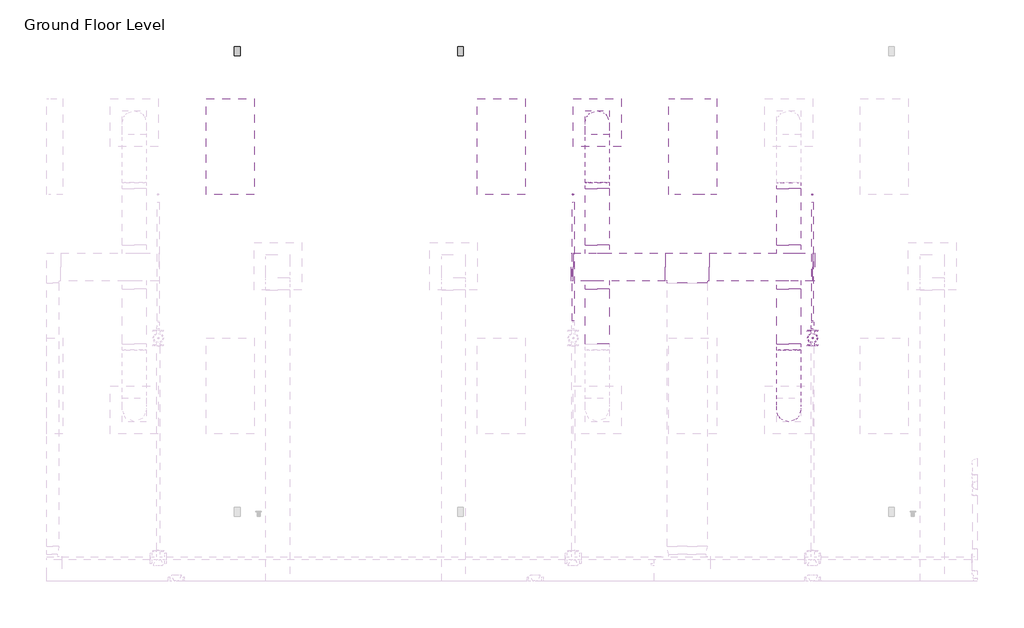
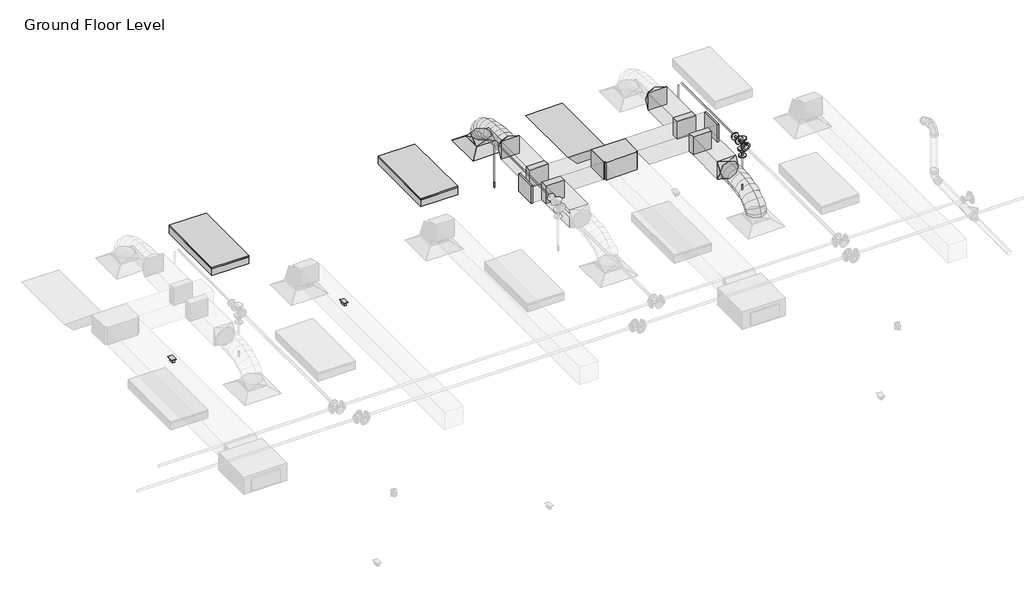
# One storey, part 57 of 74: 11 duct fittings, 8 duct segments, 5 pipe segments, 3 fire suppression terminals, 3 light fixtures, 3 pipe fittings, 2 proxies, 1 air terminal.
"""IFC4 building model written with IfcOpenShell, lengths in millimetres."""

from ifc_helpers import new_model, si_unit, point, frame, frame_2d, origin, place, context, project, spatial, polyline, circle_curve, ellipse_curve, trimmed, segment, composite_curve, outline, extrude, transform, mapped, element, save
from ifc_brep_helpers import plane_surface, cylinder_surface, advanced_brep
from components import m_return_diffuser_600_x_600_face_300_x_300_connection_ff221211, m_duplex_receptacle_standard_10251bba, m_rectangular_endcap_standard_eed78c44, m_rectangular_takeoff_standard_cb0ccb98, m_rectangular_takeoff_standard_2be5eba1, m_rectangular_tee_standard_9fc1ddf1, m_rectangular_to_round_transition_angle_45_degree_641efff0, m_sprinkler_dry_pendent_hosted_15_mm_dry_pendent_9bda8e11, m_emergency_recessed_lighting_fixture_600x1200_277_5b10b25d, m_troffer_light_parabolic_rectangular1_0600x1200mm_4_lamp_86473d4a, m_reducer_flanged_cs_class_150_standard_d42b2106, m_tee_round_base_flanged_cs_class_150_standard_7e5987a1

model = new_model("IFC4")

# Units and contexts
model_context = context("Model", 3, world=origin())
ifc_project = project(units=[si_unit("LENGTHUNIT", "METRE", prefix="MILLI")], contexts=[model_context])

# Site, building, storey
site = spatial("IfcSite", under=ifc_project)
building = spatial("IfcBuilding", under=site)
storey = spatial("IfcBuildingStorey", under=building, Name="Ground Floor Level", Elevation=900.0)

# Air terminal
placement = place(None, origin())
m_return_diffuser_600_x_600_face_300_x_300_connection_shape = m_return_diffuser_600_x_600_face_300_x_300_connection_ff221211(model_context)
element("IfcAirTerminal", 1, ObjectType="M_Supply Diffuser : 600 x 600 Face 300 x 300 Connection", at=placement, inside=storey, context=model_context, shape_type="MappedRepresentation", body=[
    mapped(m_return_diffuser_600_x_600_face_300_x_300_connection_shape, transform((-10937.2327605, 20535.2153534, 3650.0), x_axis=(1.0, 0.0, 0.0), y_axis=(0.0, 1.0, 0.0), z_axis=(0.0, 0.0, 1.0))),
])

# Proxies
m_duplex_receptacle_standard_shape = m_duplex_receptacle_standard_10251bba(model_context)
element("IfcBuildingElementProxy", 2, Name="M_Duplex Receptacle : Standard", ObjectType="M_Duplex Receptacle : Standard", at=placement, inside=storey, context=model_context, shape_type="MappedRepresentation", body=[
    mapped(m_duplex_receptacle_standard_shape, transform((-15447.2327605, 21435.2153534, 1000.0), x_axis=(-1.0, 0.0, 0.0), y_axis=(0.0, -1.0, 0.0), z_axis=(0.0, 0.0, 1.0))),
])
element("IfcBuildingElementProxy", 3, Name="M_Duplex Receptacle : Standard", ObjectType="M_Duplex Receptacle : Standard", at=placement, inside=storey, context=model_context, shape_type="MappedRepresentation", body=[
    mapped(m_duplex_receptacle_standard_shape, transform((-12647.2327605, 21435.2153534, 1000.0), x_axis=(-1.0, 0.0, 0.0), y_axis=(0.0, -1.0, 0.0), z_axis=(0.0, 0.0, 1.0))),
])

# Duct fittings
m_rectangular_endcap_standard_shape = m_rectangular_endcap_standard_eed78c44(model_context)
element("IfcDuctFitting", 4, ObjectType="M_Rectangular Endcap : Standard", at=placement, inside=storey, context=model_context, shape_type="MappedRepresentation", body=[
    mapped(m_rectangular_endcap_standard_shape, transform((-8233.7327999, 18724.6783949, 4099.998205), x_axis=(0.9999999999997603, 0.0, -6.924715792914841e-07), y_axis=(0.0, 1.0000000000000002, 0.0), z_axis=(6.924715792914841e-07, 0.0, 0.9999999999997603))),
])
element("IfcDuctFitting", 5, ObjectType="M_Rectangular Endcap : Standard", at=placement, inside=storey, context=model_context, shape_type="MappedRepresentation", body=[
    mapped(m_rectangular_endcap_standard_shape, transform((-11237.2326293, 18724.6783949, 4099.9983101), x_axis=(-0.9999999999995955, 0.0, -8.994654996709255e-07), y_axis=(0.0, -1.0000000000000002, 0.0), z_axis=(-8.994654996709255e-07, 0.0, 0.9999999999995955))),
])
m_rectangular_takeoff_standard_shape = m_rectangular_takeoff_standard_cb0ccb98(model_context)
element("IfcDuctFitting", 6, ObjectType="M_Rectangular Takeoff : Standard", at=placement, inside=storey, context=model_context, shape_type="MappedRepresentation", body=[
    mapped(m_rectangular_takeoff_standard_shape, transform((-8537.2327605, 18899.6783949, 4099.9984152), x_axis=(0.0, 1.0, 0.0), y_axis=(1.0, 0.0, 0.0), z_axis=(0.0, 0.0, -1.0))),
])
element("IfcDuctFitting", 7, ObjectType="M_Rectangular Takeoff : Standard", at=placement, inside=storey, context=model_context, shape_type="MappedRepresentation", body=[
    mapped(m_rectangular_takeoff_standard_shape, transform((-10937.2327605, 18549.6783949, 4099.9985799), x_axis=(0.0, -1.0, 0.0), y_axis=(-1.0, 0.0, 0.0), z_axis=(0.0, 0.0, -1.0))),
])
m_rectangular_takeoff_standard_2_shape = m_rectangular_takeoff_standard_2be5eba1(model_context)
element("IfcDuctFitting", 8, ObjectType="M_Rectangular Takeoff : Standard", at=placement, inside=storey, context=model_context, shape_type="MappedRepresentation", body=[
    mapped(m_rectangular_takeoff_standard_2_shape, transform((-10937.2327605, 18899.6783949, 4099.9985799), x_axis=(0.0, 1.0, 0.0), y_axis=(1.0, 0.0, 0.0), z_axis=(0.0, 0.0, -1.0))),
])
element("IfcDuctFitting", 9, ObjectType="M_Rectangular Takeoff : Standard", at=placement, inside=storey, context=model_context, shape_type="MappedRepresentation", body=[
    mapped(m_rectangular_takeoff_standard_2_shape, transform((-8537.2327605, 18549.6783949, 4099.9984152), x_axis=(0.0, -1.0, 0.0), y_axis=(-1.0, 0.0, 0.0), z_axis=(0.0, 0.0, -1.0))),
])
m_rectangular_tee_standard_shape = m_rectangular_tee_standard_9fc1ddf1(model_context)
element("IfcDuctFitting", 10, ObjectType="M_Rectangular Tee : Standard", at=placement, inside=storey, context=model_context, shape_type="MappedRepresentation", body=[
    mapped(m_rectangular_tee_standard_shape, transform((-9808.7327605, 18724.6783949, 4099.9992264), x_axis=(0.999999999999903, 0.0, -4.406637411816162e-07), y_axis=(-1.704451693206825e-12, 0.9999999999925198, -3.867919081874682e-06), z_axis=(4.406637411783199e-07, 3.867919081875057e-06, 0.9999999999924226))),
])
m_rectangular_to_round_transition_angle_45_degree_shape = m_rectangular_to_round_transition_angle_45_degree_641efff0(model_context)
element("IfcDuctFitting", 11, ObjectType="M_Rectangular to Round Transition - Angle : 45 Degree", at=placement, inside=storey, context=model_context, shape_type="MappedRepresentation", body=[
    mapped(m_rectangular_to_round_transition_angle_45_degree_shape, transform((-10937.2327605, 20535.2153534, 3751.6), x_axis=(0.0, 0.0, 1.0), y_axis=(-1.0, 0.0, 0.0), z_axis=(0.0, -1.0, 0.0))),
])
element("IfcDuctFitting", 12, ObjectType="M_Rectangular to Round Transition - Angle : 45 Degree", at=placement, inside=storey, context=model_context, shape_type="MappedRepresentation", body=[
    mapped(m_rectangular_to_round_transition_angle_45_degree_shape, transform((-10937.2327605, 19707.878002, 4099.9985799), x_axis=(0.0, 1.0, 0.0), y_axis=(-1.0, 0.0, 0.0), z_axis=(0.0, 0.0, 1.0))),
])
element("IfcDuctFitting", 13, ObjectType="M_Rectangular to Round Transition - Angle : 45 Degree", at=placement, inside=storey, context=model_context, shape_type="MappedRepresentation", body=[
    mapped(m_rectangular_to_round_transition_angle_45_degree_shape, transform((-8537.2327605, 19707.8778373, 4099.9984152), x_axis=(0.0, 1.0, 0.0), y_axis=(-1.0, 0.0, 0.0), z_axis=(0.0, 0.0, 1.0))),
])
element("IfcDuctFitting", 14, ObjectType="M_Rectangular to Round Transition - Angle : 45 Degree", at=placement, inside=storey, context=model_context, shape_type="MappedRepresentation", body=[
    mapped(m_rectangular_to_round_transition_angle_45_degree_shape, transform((-8537.2327605, 17762.5528695, 4099.9984152), x_axis=(0.0, -1.0, 0.0), y_axis=(1.0, 0.0, 0.0), z_axis=(0.0, 0.0, 1.0))),
])

# Duct segments
element("IfcDuctSegment", 15, ObjectType="Flex - Round", at=placement, inside=storey, context=model_context, shape_type="AdvancedBrep", body=[
    advanced_brep(
    [(-10787.2327605, 20535.2153534, 3826.6), (-10937.2327605, 20385.2153534, 3826.6), (-11087.2327605, 20535.2153534, 3826.6), (-10937.2327605, 20685.2153534, 3826.6), (-10787.2327605, 20535.2153534, 3857.9377711), (-10937.2327605, 20385.2153534, 3832.2944759), (-11087.2327605, 20535.2153534, 3857.9377711), (-10937.2327605, 20685.2153534, 3883.5810662), (-10787.2327605, 20518.1993815, 3906.2505987), (-10937.2327605, 20384.461492, 3834.4348871), (-11087.2327605, 20518.1993815, 3906.2505987), (-10937.2327605, 20651.937271, 3978.0663103), (-10787.2327605, 20471.0153939, 3968.7112481), (-10937.2327605, 20366.8097377, 3857.8017132), (-11087.2327605, 20471.0153939, 3968.7112481), (-10937.2327605, 20575.2210501, 4079.620783), (-10787.2327605, 20399.4592831, 4016.0698216), (-10937.2327605, 20330.5256105, 3881.8159377), (-11087.2327605, 20399.4592831, 4016.0698216), (-10937.2327605, 20468.3929557, 4150.3237055), (-10787.2327605, 20309.3269414, 4050.4141926), (-10937.2327605, 20265.7665969, 3906.491959), (-11087.2327605, 20309.3269414, 4050.4141926), (-10937.2327605, 20352.8872859, 4194.3364261), (-10787.2327605, 20206.4142611, 4073.8322345), (-10937.2327605, 20179.853734, 3926.0416493), (-11087.2327605, 20206.4142611, 4073.8322345), (-10937.2327605, 20232.9747882, 4221.6228196), (-10787.2327605, 20096.5171347, 4088.4118207), (-10937.2327605, 20081.3665773, 3939.1075232), (-11087.2327605, 20096.5171347, 4088.4118207), (-10937.2327605, 20111.6676921, 4237.7161183), (-10787.2327605, 19985.4314545, 4096.2408248), (-10937.2327605, 19977.9263947, 3946.3976942), (-11087.2327605, 19985.4314545, 4096.2408248), (-10937.2327605, 19992.9365143, 4246.0839553), (-10787.2327605, 19878.9531128, 4099.40712), (-10937.2327605, 19876.2617774, 3949.4208461), (-11087.2327605, 19878.9531128, 4099.40712), (-10937.2327605, 19881.6444482, 4249.393394), (-10787.2327605, 19782.878002, 4099.9985799), (-10937.2327605, 19783.8014181, 4249.9957376), (-11087.2327605, 19782.878002, 4099.9985799), (-10937.2327605, 19781.9545859, 3950.0014223)],
    [
        (0, 1, circle_curve(frame((-10937.2327605, 20535.2153534, 3826.6), z_axis=(0.0, 0.0, -1.0), x_axis=(1.0, 0.0, 0.0)), 150.0)),
        (1, 2, circle_curve(frame((-10937.2327605, 20535.2153534, 3826.6), z_axis=(0.0, 0.0, -1.0), x_axis=(1.0, 0.0, 0.0)), 150.0)),
        (2, 3, circle_curve(frame((-10937.2327605, 20535.2153534, 3826.6), z_axis=(0.0, 0.0, -1.0), x_axis=(1.0, 0.0, 0.0)), 150.0)),
        (3, 0, circle_curve(frame((-10937.2327605, 20535.2153534, 3826.6), z_axis=(0.0, 0.0, -1.0), x_axis=(1.0, 0.0, 0.0)), 150.0)),
        (0, 4),
        (4, 5, ellipse_curve(frame((-10937.2327605, 20535.2153534, 3857.9377711), z_axis=(0.0, 0.1685106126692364, -0.9856998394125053), x_axis=(0.0, -0.9856998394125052, -0.16851061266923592)), 152.1761433, 150.0)),
        (5, 1),
        (5, 6, ellipse_curve(frame((-10937.2327605, 20535.2153534, 3857.9377711), z_axis=(0.0, 0.1685106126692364, -0.9856998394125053), x_axis=(0.0, -0.9856998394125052, -0.16851061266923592)), 152.1761433, 150.0)),
        (6, 2),
        (6, 7, ellipse_curve(frame((-10937.2327605, 20535.2153534, 3857.9377711), z_axis=(0.0, 0.1685106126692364, -0.9856998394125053), x_axis=(0.0, -0.9856998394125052, -0.16851061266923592)), 152.1761433, 150.0)),
        (7, 3),
        (7, 4, ellipse_curve(frame((-10937.2327605, 20535.2153534, 3857.9377711), z_axis=(0.0, 0.1685106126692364, -0.9856998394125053), x_axis=(0.0, -0.9856998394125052, -0.16851061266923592)), 152.1761433, 150.0)),
        (4, 8),
        (8, 9, ellipse_curve(frame((-10937.2327605, 20518.1993815, 3906.2505987), z_axis=(0.0, 0.4730934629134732, -0.8810122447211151), x_axis=(0.0, -0.8810122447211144, -0.47309346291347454)), 151.8002619, 150.0)),
        (9, 5),
        (9, 10, ellipse_curve(frame((-10937.2327605, 20518.1993815, 3906.2505987), z_axis=(0.0, 0.4730934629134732, -0.8810122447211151), x_axis=(0.0, -0.8810122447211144, -0.47309346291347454)), 151.8002619, 150.0)),
        (10, 6),
        (10, 11, ellipse_curve(frame((-10937.2327605, 20518.1993815, 3906.2505987), z_axis=(0.0, 0.4730934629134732, -0.8810122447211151), x_axis=(0.0, -0.8810122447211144, -0.47309346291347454)), 151.8002619, 150.0)),
        (11, 7),
        (11, 8, ellipse_curve(frame((-10937.2327605, 20518.1993815, 3906.2505987), z_axis=(0.0, 0.4730934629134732, -0.8810122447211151), x_axis=(0.0, -0.8810122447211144, -0.47309346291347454)), 151.8002619, 150.0)),
        (8, 12),
        (12, 13, ellipse_curve(frame((-10937.2327605, 20471.0153939, 3968.7112481), z_axis=(0.0, 0.7287893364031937, -0.684737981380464), x_axis=(0.0, -0.6847379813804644, -0.7287893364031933)), 152.183257, 150.0)),
        (13, 9),
        (13, 14, ellipse_curve(frame((-10937.2327605, 20471.0153939, 3968.7112481), z_axis=(0.0, 0.7287893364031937, -0.684737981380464), x_axis=(0.0, -0.6847379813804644, -0.7287893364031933)), 152.183257, 150.0)),
        (14, 10),
        (14, 15, ellipse_curve(frame((-10937.2327605, 20471.0153939, 3968.7112481), z_axis=(0.0, 0.7287893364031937, -0.684737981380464), x_axis=(0.0, -0.6847379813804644, -0.7287893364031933)), 152.183257, 150.0)),
        (15, 11),
        (15, 12, ellipse_curve(frame((-10937.2327605, 20471.0153939, 3968.7112481), z_axis=(0.0, 0.7287893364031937, -0.684737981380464), x_axis=(0.0, -0.6847379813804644, -0.7287893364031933)), 152.183257, 150.0)),
        (12, 16),
        (16, 17, ellipse_curve(frame((-10937.2327605, 20399.4592831, 4016.0698216), z_axis=(0.0, 0.8895872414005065, -0.4567653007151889), x_axis=(0.0, -0.45676530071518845, -0.8895872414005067)), 150.9170519, 150.0)),
        (17, 13),
        (17, 18, ellipse_curve(frame((-10937.2327605, 20399.4592831, 4016.0698216), z_axis=(0.0, 0.8895872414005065, -0.4567653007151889), x_axis=(0.0, -0.45676530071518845, -0.8895872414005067)), 150.9170519, 150.0)),
        (18, 14),
        (18, 19, ellipse_curve(frame((-10937.2327605, 20399.4592831, 4016.0698216), z_axis=(0.0, 0.8895872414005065, -0.4567653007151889), x_axis=(0.0, -0.45676530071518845, -0.8895872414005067)), 150.9170519, 150.0)),
        (19, 15),
        (19, 16, ellipse_curve(frame((-10937.2327605, 20399.4592831, 4016.0698216), z_axis=(0.0, 0.8895872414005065, -0.4567653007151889), x_axis=(0.0, -0.45676530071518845, -0.8895872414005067)), 150.9170519, 150.0)),
        (16, 20),
        (20, 21, ellipse_curve(frame((-10937.2327605, 20309.3269414, 4050.4141926), z_axis=(0.0, 0.9571211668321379, -0.28968788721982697), x_axis=(0.0, -0.2896878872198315, -0.9571211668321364)), 150.3699202, 150.0)),
        (21, 17),
        (21, 22, ellipse_curve(frame((-10937.2327605, 20309.3269414, 4050.4141926), z_axis=(0.0, 0.9571211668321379, -0.28968788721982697), x_axis=(0.0, -0.2896878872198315, -0.9571211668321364)), 150.3699202, 150.0)),
        (22, 18),
        (22, 23, ellipse_curve(frame((-10937.2327605, 20309.3269414, 4050.4141926), z_axis=(0.0, 0.9571211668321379, -0.28968788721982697), x_axis=(0.0, -0.2896878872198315, -0.9571211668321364)), 150.3699202, 150.0)),
        (23, 19),
        (23, 20, ellipse_curve(frame((-10937.2327605, 20309.3269414, 4050.4141926), z_axis=(0.0, 0.9571211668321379, -0.28968788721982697), x_axis=(0.0, -0.2896878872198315, -0.9571211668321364)), 150.3699202, 150.0)),
        (20, 24),
        (24, 25, ellipse_curve(frame((-10937.2327605, 20206.4142611, 4073.8322345), z_axis=(0.0, 0.9842317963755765, -0.176883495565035), x_axis=(0.0, -0.1768834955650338, -0.9842317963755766)), 150.158312, 150.0)),
        (25, 21),
        (25, 26, ellipse_curve(frame((-10937.2327605, 20206.4142611, 4073.8322345), z_axis=(0.0, 0.9842317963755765, -0.176883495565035), x_axis=(0.0, -0.1768834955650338, -0.9842317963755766)), 150.158312, 150.0)),
        (26, 22),
        (26, 27, ellipse_curve(frame((-10937.2327605, 20206.4142611, 4073.8322345), z_axis=(0.0, 0.9842317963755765, -0.176883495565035), x_axis=(0.0, -0.1768834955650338, -0.9842317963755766)), 150.158312, 150.0)),
        (27, 23),
        (27, 24, ellipse_curve(frame((-10937.2327605, 20206.4142611, 4073.8322345), z_axis=(0.0, 0.9842317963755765, -0.176883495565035), x_axis=(0.0, -0.1768834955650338, -0.9842317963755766)), 150.158312, 150.0)),
        (24, 28),
        (28, 29, ellipse_curve(frame((-10937.2327605, 20096.5171347, 4088.4118207), z_axis=(0.0, 0.9948909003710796, -0.10095591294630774), x_axis=(0.0, -0.10095591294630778, -0.9948909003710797)), 150.0710253, 150.0)),
        (29, 25),
        (29, 30, ellipse_curve(frame((-10937.2327605, 20096.5171347, 4088.4118207), z_axis=(0.0, 0.9948909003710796, -0.10095591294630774), x_axis=(0.0, -0.10095591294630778, -0.9948909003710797)), 150.0710253, 150.0)),
        (30, 26),
        (30, 31, ellipse_curve(frame((-10937.2327605, 20096.5171347, 4088.4118207), z_axis=(0.0, 0.9948909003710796, -0.10095591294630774), x_axis=(0.0, -0.10095591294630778, -0.9948909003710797)), 150.0710253, 150.0)),
        (31, 27),
        (31, 28, ellipse_curve(frame((-10937.2327605, 20096.5171347, 4088.4118207), z_axis=(0.0, 0.9948909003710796, -0.10095591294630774), x_axis=(0.0, -0.10095591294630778, -0.9948909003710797)), 150.0710253, 150.0)),
        (28, 32),
        (32, 33, ellipse_curve(frame((-10937.2327605, 19985.4314545, 4096.2408248), z_axis=(0.0, 0.9987480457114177, -0.05002340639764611), x_axis=(0.0, -0.05002340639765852, -0.9987480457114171)), 150.0309624, 150.0)),
        (33, 29),
        (33, 34, ellipse_curve(frame((-10937.2327605, 19985.4314545, 4096.2408248), z_axis=(0.0, 0.9987480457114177, -0.05002340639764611), x_axis=(0.0, -0.05002340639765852, -0.9987480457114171)), 150.0309624, 150.0)),
        (34, 30),
        (34, 35, ellipse_curve(frame((-10937.2327605, 19985.4314545, 4096.2408248), z_axis=(0.0, 0.9987480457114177, -0.05002340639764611), x_axis=(0.0, -0.05002340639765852, -0.9987480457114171)), 150.0309624, 150.0)),
        (35, 31),
        (35, 32, ellipse_curve(frame((-10937.2327605, 19985.4314545, 4096.2408248), z_axis=(0.0, 0.9987480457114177, -0.05002340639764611), x_axis=(0.0, -0.05002340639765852, -0.9987480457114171)), 150.0309624, 150.0)),
        (32, 36),
        (36, 37, ellipse_curve(frame((-10937.2327605, 19878.9531128, 4099.40712), z_axis=(0.0, 0.9998390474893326, -0.017940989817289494), x_axis=(0.0, -0.0179409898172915, -0.9998390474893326)), 150.0104185, 150.0)),
        (37, 33),
        (37, 38, ellipse_curve(frame((-10937.2327605, 19878.9531128, 4099.40712), z_axis=(0.0, 0.9998390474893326, -0.017940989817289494), x_axis=(0.0, -0.0179409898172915, -0.9998390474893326)), 150.0104185, 150.0)),
        (38, 34),
        (38, 39, ellipse_curve(frame((-10937.2327605, 19878.9531128, 4099.40712), z_axis=(0.0, 0.9998390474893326, -0.017940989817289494), x_axis=(0.0, -0.0179409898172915, -0.9998390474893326)), 150.0104185, 150.0)),
        (39, 35),
        (39, 36, ellipse_curve(frame((-10937.2327605, 19878.9531128, 4099.40712), z_axis=(0.0, 0.9998390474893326, -0.017940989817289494), x_axis=(0.0, -0.0179409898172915, -0.9998390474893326)), 150.0104185, 150.0)),
        (40, 41, circle_curve(frame((-10937.2327605, 19782.878002, 4099.9985799), z_axis=(0.0, -0.9999810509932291, 0.006156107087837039), x_axis=(1.0, 0.0, 0.0)), 150.0)),
        (41, 42, circle_curve(frame((-10937.2327605, 19782.878002, 4099.9985799), z_axis=(0.0, -0.9999810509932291, 0.006156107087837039), x_axis=(1.0, 0.0, 0.0)), 150.0)),
        (42, 43, circle_curve(frame((-10937.2327605, 19782.878002, 4099.9985799), z_axis=(0.0, -0.9999810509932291, 0.006156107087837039), x_axis=(1.0, 0.0, 0.0)), 150.0)),
        (43, 40, circle_curve(frame((-10937.2327605, 19782.878002, 4099.9985799), z_axis=(0.0, -0.9999810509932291, 0.006156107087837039), x_axis=(1.0, 0.0, 0.0)), 150.0)),
        (36, 40),
        (43, 37),
        (42, 38),
        (41, 39),
    ],
    [
        plane_surface(frame((-10937.2327605, 20385.2153534, 3826.6), z_axis=(0.0, 0.0, -1.0), x_axis=(1.0, 0.0, 0.0))),
        cylinder_surface(frame((-10937.2327605, 20535.2153534, 3826.6), z_axis=(0.0, 0.0, -1.0), x_axis=(1.0, 0.0, 0.0)), 150.0),
        cylinder_surface(frame((-10937.2327605, 20535.2153534, 3857.9377711), z_axis=(0.0, 0.33220176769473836, -0.9432083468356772), x_axis=(1.0, 0.0, 0.0)), 150.0),
        cylinder_surface(frame((-10937.2327605, 20518.1993815, 3906.2505987), z_axis=(0.0, 0.6027639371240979, -0.7979195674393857), x_axis=(1.0, 0.0, 0.0)), 150.0),
        cylinder_surface(frame((-10937.2327605, 20471.0153939, 3968.7112481), z_axis=(0.0, 0.8339039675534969, -0.5519095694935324), x_axis=(1.0, 0.0, 0.0)), 150.0),
        cylinder_surface(frame((-10937.2327605, 20399.4592831, 4016.0698216), z_axis=(0.0, 0.9344593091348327, -0.35606993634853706), x_axis=(1.0, 0.0, 0.0)), 150.0),
        cylinder_surface(frame((-10937.2327605, 20309.3269414, 4050.4141926), z_axis=(0.0, 0.9750738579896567, -0.2218805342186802), x_axis=(1.0, 0.0, 0.0)), 150.0),
        cylinder_surface(frame((-10937.2327605, 20206.4142611, 4073.8322345), z_axis=(0.0, 0.9913143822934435, -0.13151348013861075), x_axis=(1.0, 0.0, 0.0)), 150.0),
        cylinder_surface(frame((-10937.2327605, 20096.5171347, 4088.4118207), z_axis=(0.0, 0.997525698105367, -0.07030278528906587), x_axis=(1.0, 0.0, 0.0)), 150.0),
        cylinder_surface(frame((-10937.2327605, 19985.4314545, 4096.2408248), z_axis=(0.0, 0.9995581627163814, -0.02972338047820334), x_axis=(1.0, 0.0, 0.0)), 150.0),
        plane_surface(frame((-10937.2327605, 19781.9545859, 3950.0014223), z_axis=(0.0, -0.9999810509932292, 0.006156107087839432), x_axis=(1.0, 0.0, 0.0))),
        cylinder_surface(frame((-10937.2327605, 19878.9531128, 4099.40712), z_axis=(0.0, 0.9999810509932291, -0.006156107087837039), x_axis=(1.0, 0.0, 0.0)), 150.0),
    ],
    [
        (0, [[1, 2, 3, 4]]),
        (1, [[-1, 5, 6, 7]]),
        (1, [[-2, -7, 8, 9]]),
        (1, [[-3, -9, 10, 11]]),
        (1, [[-4, -11, 12, -5]]),
        (2, [[-6, 13, 14, 15]]),
        (2, [[-8, -15, 16, 17]]),
        (2, [[-10, -17, 18, 19]]),
        (2, [[-12, -19, 20, -13]]),
        (3, [[-14, 21, 22, 23]]),
        (3, [[-16, -23, 24, 25]]),
        (3, [[-18, -25, 26, 27]]),
        (3, [[-20, -27, 28, -21]]),
        (4, [[-22, 29, 30, 31]]),
        (4, [[-24, -31, 32, 33]]),
        (4, [[-26, -33, 34, 35]]),
        (4, [[-28, -35, 36, -29]]),
        (5, [[-30, 37, 38, 39]]),
        (5, [[-32, -39, 40, 41]]),
        (5, [[-34, -41, 42, 43]]),
        (5, [[-36, -43, 44, -37]]),
        (6, [[-38, 45, 46, 47]]),
        (6, [[-40, -47, 48, 49]]),
        (6, [[-42, -49, 50, 51]]),
        (6, [[-44, -51, 52, -45]]),
        (7, [[-46, 53, 54, 55]]),
        (7, [[-48, -55, 56, 57]]),
        (7, [[-50, -57, 58, 59]]),
        (7, [[-52, -59, 60, -53]]),
        (8, [[-54, 61, 62, 63]]),
        (8, [[-56, -63, 64, 65]]),
        (8, [[-58, -65, 66, 67]]),
        (8, [[-60, -67, 68, -61]]),
        (9, [[-62, 69, 70, 71]]),
        (9, [[-64, -71, 72, 73]]),
        (9, [[-66, -73, 74, 75]]),
        (9, [[-68, -75, 76, -69]]),
        (10, [[77, 78, 79, 80]]),
        (11, [[-70, 81, -80, 82]]),
        (11, [[-72, -82, -79, 83]]),
        (11, [[-74, -83, -78, 84]]),
        (11, [[-76, -84, -77, -81]]),
    ],
),
])
element("IfcDuctSegment", 16, ObjectType="Flex - Round", at=placement, inside=storey, context=model_context, shape_type="AdvancedBrep", body=[
    advanced_brep(
    [(-8387.2327605, 16935.2153534, 3826.6), (-8537.2327605, 16785.2153534, 3826.6), (-8687.2327605, 16935.2153534, 3826.6), (-8537.2327605, 17085.2153534, 3826.6), (-8387.2327605, 16935.2153534, 3857.937778), (-8537.2327605, 16785.2153534, 3883.5810816), (-8687.2327605, 16935.2153534, 3857.937778), (-8537.2327605, 17085.2153534, 3832.2944744), (-8387.2327605, 16952.2313299, 3906.2506017), (-8537.2327605, 16818.4934508, 3978.0663351), (-8687.2327605, 16952.2313299, 3906.2506017), (-8537.2327605, 17085.969209, 3834.4348684), (-8387.2327605, 16999.4153299, 3968.7112406), (-8537.2327605, 16895.2097019, 4079.6208039), (-8687.2327605, 16999.4153299, 3968.7112406), (-8537.2327605, 17103.6209579, 3857.8016772), (-8387.2327605, 17070.9714591, 4016.0697935), (-8537.2327605, 17002.0378309, 4150.3237004), (-8687.2327605, 17070.9714591, 4016.0697935), (-8537.2327605, 17139.9050873, 3881.8158865), (-8387.2327605, 17161.1038233, 4050.4141374), (-8537.2327605, 17117.5435273, 4194.3363855), (-8687.2327605, 17161.1038233, 4050.4141374), (-8537.2327605, 17204.6641192, 3906.4918893), (-8387.2327605, 17264.0165282, 4073.8321493), (-8537.2327605, 17237.4560471, 4221.6227426), (-8687.2327605, 17264.0165282, 4073.8321493), (-8537.2327605, 17290.5770092, 3926.0415559), (-8387.2327605, 17373.9136795, 4088.411706), (-8537.2327605, 17358.7631621, 4237.7160075), (-8687.2327605, 17373.9136795, 4088.411706), (-8537.2327605, 17389.0641968, 3939.1074046), (-8387.2327605, 17484.999383, 4096.2406846), (-8537.2327605, 17477.4943543, 4246.0838166), (-8687.2327605, 17484.999383, 4096.2406846), (-8537.2327605, 17492.5044117, 3946.3975526), (-8387.2327605, 17591.4777444, 4099.406962), (-8537.2327605, 17588.7864273, 4249.3932362), (-8687.2327605, 17591.4777444, 4099.406962), (-8537.2327605, 17594.1690615, 3949.4206879), (-8387.2327605, 17687.5528695, 4099.9984152), (-8537.2327605, 17688.4762749, 3950.0012575), (-8687.2327605, 17687.5528695, 4099.9984152), (-8537.2327605, 17686.6294641, 4249.9955729)],
    [
        (0, 1, circle_curve(frame((-8537.2327605, 16935.2153534, 3826.6), z_axis=(0.0, 0.0, -1.0), x_axis=(1.0, 0.0, 0.0)), 150.0)),
        (1, 2, circle_curve(frame((-8537.2327605, 16935.2153534, 3826.6), z_axis=(0.0, 0.0, -1.0), x_axis=(1.0, 0.0, 0.0)), 150.0)),
        (2, 3, circle_curve(frame((-8537.2327605, 16935.2153534, 3826.6), z_axis=(0.0, 0.0, -1.0), x_axis=(1.0, 0.0, 0.0)), 150.0)),
        (3, 0, circle_curve(frame((-8537.2327605, 16935.2153534, 3826.6), z_axis=(0.0, 0.0, -1.0), x_axis=(1.0, 0.0, 0.0)), 150.0)),
        (0, 4),
        (4, 5, ellipse_curve(frame((-8537.2327605, 16935.2153534, 3857.937778), z_axis=(0.0, -0.16851066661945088, -0.9856998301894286), x_axis=(0.0, 0.9856998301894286, -0.16851066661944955)), 152.1761447, 150.0)),
        (5, 1),
        (5, 6, ellipse_curve(frame((-8537.2327605, 16935.2153534, 3857.937778), z_axis=(0.0, -0.16851066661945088, -0.9856998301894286), x_axis=(0.0, 0.9856998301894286, -0.16851066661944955)), 152.1761447, 150.0)),
        (6, 2),
        (6, 7, ellipse_curve(frame((-8537.2327605, 16935.2153534, 3857.937778), z_axis=(0.0, -0.16851066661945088, -0.9856998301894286), x_axis=(0.0, 0.9856998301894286, -0.16851066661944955)), 152.1761447, 150.0)),
        (7, 3),
        (7, 4, ellipse_curve(frame((-8537.2327605, 16935.2153534, 3857.937778), z_axis=(0.0, -0.16851066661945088, -0.9856998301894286), x_axis=(0.0, 0.9856998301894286, -0.16851066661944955)), 152.1761447, 150.0)),
        (4, 8),
        (8, 9, ellipse_curve(frame((-8537.2327605, 16952.2313299, 3906.2506017), z_axis=(0.0, -0.4730936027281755, -0.8810121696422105), x_axis=(0.0, 0.8810121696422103, -0.4730936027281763)), 151.8002631, 150.0)),
        (9, 5),
        (9, 10, ellipse_curve(frame((-8537.2327605, 16952.2313299, 3906.2506017), z_axis=(0.0, -0.4730936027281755, -0.8810121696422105), x_axis=(0.0, 0.8810121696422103, -0.4730936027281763)), 151.8002631, 150.0)),
        (10, 6),
        (10, 11, ellipse_curve(frame((-8537.2327605, 16952.2313299, 3906.2506017), z_axis=(0.0, -0.4730936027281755, -0.8810121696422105), x_axis=(0.0, 0.8810121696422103, -0.4730936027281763)), 151.8002631, 150.0)),
        (11, 7),
        (11, 8, ellipse_curve(frame((-8537.2327605, 16952.2313299, 3906.2506017), z_axis=(0.0, -0.4730936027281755, -0.8810121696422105), x_axis=(0.0, 0.8810121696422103, -0.4730936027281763)), 151.8002631, 150.0)),
        (8, 12),
        (12, 13, ellipse_curve(frame((-8537.2327605, 16999.4153299, 3968.7112406), z_axis=(0.0, -0.72878951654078, -0.684737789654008), x_axis=(0.0, 0.6847377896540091, -0.7287895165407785)), 152.1832584, 150.0)),
        (13, 9),
        (13, 14, ellipse_curve(frame((-8537.2327605, 16999.4153299, 3968.7112406), z_axis=(0.0, -0.72878951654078, -0.684737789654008), x_axis=(0.0, 0.6847377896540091, -0.7287895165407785)), 152.1832584, 150.0)),
        (14, 10),
        (14, 15, ellipse_curve(frame((-8537.2327605, 16999.4153299, 3968.7112406), z_axis=(0.0, -0.72878951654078, -0.684737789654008), x_axis=(0.0, 0.6847377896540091, -0.7287895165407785)), 152.1832584, 150.0)),
        (15, 11),
        (15, 12, ellipse_curve(frame((-8537.2327605, 16999.4153299, 3968.7112406), z_axis=(0.0, -0.72878951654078, -0.684737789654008), x_axis=(0.0, 0.6847377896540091, -0.7287895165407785)), 152.1832584, 150.0)),
        (12, 16),
        (16, 17, ellipse_curve(frame((-8537.2327605, 17070.9714591, 4016.0697935), z_axis=(0.0, -0.889587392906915, -0.45676500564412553), x_axis=(0.0, 0.45676500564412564, -0.889587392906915)), 150.9170521, 150.0)),
        (17, 13),
        (17, 18, ellipse_curve(frame((-8537.2327605, 17070.9714591, 4016.0697935), z_axis=(0.0, -0.889587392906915, -0.45676500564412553), x_axis=(0.0, 0.45676500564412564, -0.889587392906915)), 150.9170521, 150.0)),
        (18, 14),
        (18, 19, ellipse_curve(frame((-8537.2327605, 17070.9714591, 4016.0697935), z_axis=(0.0, -0.889587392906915, -0.45676500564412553), x_axis=(0.0, 0.45676500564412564, -0.889587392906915)), 150.9170521, 150.0)),
        (19, 15),
        (19, 16, ellipse_curve(frame((-8537.2327605, 17070.9714591, 4016.0697935), z_axis=(0.0, -0.889587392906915, -0.45676500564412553), x_axis=(0.0, 0.45676500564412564, -0.889587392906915)), 150.9170521, 150.0)),
        (16, 20),
        (20, 21, ellipse_curve(frame((-8537.2327605, 17161.1038233, 4050.4141374), z_axis=(0.0, -0.9571212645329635, -0.28968756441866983), x_axis=(0.0, 0.28968756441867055, -0.9571212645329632)), 150.3699202, 150.0)),
        (21, 17),
        (21, 22, ellipse_curve(frame((-8537.2327605, 17161.1038233, 4050.4141374), z_axis=(0.0, -0.9571212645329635, -0.28968756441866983), x_axis=(0.0, 0.28968756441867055, -0.9571212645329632)), 150.3699202, 150.0)),
        (22, 18),
        (22, 23, ellipse_curve(frame((-8537.2327605, 17161.1038233, 4050.4141374), z_axis=(0.0, -0.9571212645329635, -0.28968756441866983), x_axis=(0.0, 0.28968756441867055, -0.9571212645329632)), 150.3699202, 150.0)),
        (23, 19),
        (23, 20, ellipse_curve(frame((-8537.2327605, 17161.1038233, 4050.4141374), z_axis=(0.0, -0.9571212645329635, -0.28968756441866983), x_axis=(0.0, 0.28968756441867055, -0.9571212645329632)), 150.3699202, 150.0)),
        (20, 24),
        (24, 25, ellipse_curve(frame((-8537.2327605, 17264.0165282, 4073.8321493), z_axis=(0.0, -0.9842318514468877, -0.17688318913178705), x_axis=(0.0, 0.17688318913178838, -0.9842318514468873)), 150.1583119, 150.0)),
        (25, 21),
        (25, 26, ellipse_curve(frame((-8537.2327605, 17264.0165282, 4073.8321493), z_axis=(0.0, -0.9842318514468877, -0.17688318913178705), x_axis=(0.0, 0.17688318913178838, -0.9842318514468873)), 150.1583119, 150.0)),
        (26, 22),
        (26, 27, ellipse_curve(frame((-8537.2327605, 17264.0165282, 4073.8321493), z_axis=(0.0, -0.9842318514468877, -0.17688318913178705), x_axis=(0.0, 0.17688318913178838, -0.9842318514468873)), 150.1583119, 150.0)),
        (27, 23),
        (27, 24, ellipse_curve(frame((-8537.2327605, 17264.0165282, 4073.8321493), z_axis=(0.0, -0.9842318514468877, -0.17688318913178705), x_axis=(0.0, 0.17688318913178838, -0.9842318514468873)), 150.1583119, 150.0)),
        (24, 28),
        (28, 29, ellipse_curve(frame((-8537.2327605, 17373.9136795, 4088.411706), z_axis=(0.0, -0.9948909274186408, -0.10095564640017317), x_axis=(0.0, 0.10095564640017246, -0.9948909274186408)), 150.0710252, 150.0)),
        (29, 25),
        (29, 30, ellipse_curve(frame((-8537.2327605, 17373.9136795, 4088.411706), z_axis=(0.0, -0.9948909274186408, -0.10095564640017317), x_axis=(0.0, 0.10095564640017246, -0.9948909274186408)), 150.0710252, 150.0)),
        (30, 26),
        (30, 31, ellipse_curve(frame((-8537.2327605, 17373.9136795, 4088.411706), z_axis=(0.0, -0.9948909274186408, -0.10095564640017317), x_axis=(0.0, 0.10095564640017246, -0.9948909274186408)), 150.0710252, 150.0)),
        (31, 27),
        (31, 28, ellipse_curve(frame((-8537.2327605, 17373.9136795, 4088.411706), z_axis=(0.0, -0.9948909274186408, -0.10095564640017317), x_axis=(0.0, 0.10095564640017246, -0.9948909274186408)), 150.0710252, 150.0)),
        (28, 32),
        (32, 33, ellipse_curve(frame((-8537.2327605, 17484.999383, 4096.2406846), z_axis=(0.0, -0.9987480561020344, -0.050023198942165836), x_axis=(0.0, 0.050023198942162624, -0.9987480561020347)), 150.0309623, 150.0)),
        (33, 29),
        (33, 34, ellipse_curve(frame((-8537.2327605, 17484.999383, 4096.2406846), z_axis=(0.0, -0.9987480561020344, -0.050023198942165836), x_axis=(0.0, 0.050023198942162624, -0.9987480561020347)), 150.0309623, 150.0)),
        (34, 30),
        (34, 35, ellipse_curve(frame((-8537.2327605, 17484.999383, 4096.2406846), z_axis=(0.0, -0.9987480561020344, -0.050023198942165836), x_axis=(0.0, 0.050023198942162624, -0.9987480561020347)), 150.0309623, 150.0)),
        (35, 31),
        (35, 32, ellipse_curve(frame((-8537.2327605, 17484.999383, 4096.2406846), z_axis=(0.0, -0.9987480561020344, -0.050023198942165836), x_axis=(0.0, 0.050023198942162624, -0.9987480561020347)), 150.0309623, 150.0)),
        (32, 36),
        (36, 37, ellipse_curve(frame((-8537.2327605, 17591.4777444, 4099.406962), z_axis=(0.0, -0.99983904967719, -0.017940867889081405), x_axis=(0.0, 0.017940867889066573, -0.9998390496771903)), 150.0104184, 150.0)),
        (37, 33),
        (37, 38, ellipse_curve(frame((-8537.2327605, 17591.4777444, 4099.406962), z_axis=(0.0, -0.99983904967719, -0.017940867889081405), x_axis=(0.0, 0.017940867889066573, -0.9998390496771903)), 150.0104184, 150.0)),
        (38, 34),
        (38, 39, ellipse_curve(frame((-8537.2327605, 17591.4777444, 4099.406962), z_axis=(0.0, -0.99983904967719, -0.017940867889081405), x_axis=(0.0, 0.017940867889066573, -0.9998390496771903)), 150.0104184, 150.0)),
        (39, 35),
        (39, 36, ellipse_curve(frame((-8537.2327605, 17591.4777444, 4099.406962), z_axis=(0.0, -0.99983904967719, -0.017940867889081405), x_axis=(0.0, 0.017940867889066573, -0.9998390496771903)), 150.0104184, 150.0)),
        (40, 41, circle_curve(frame((-8537.2327605, 17687.5528695, 4099.9984152), z_axis=(0.0, 0.9999810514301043, 0.006156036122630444), x_axis=(1.0, 0.0, 0.0)), 150.0)),
        (41, 42, circle_curve(frame((-8537.2327605, 17687.5528695, 4099.9984152), z_axis=(0.0, 0.9999810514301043, 0.006156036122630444), x_axis=(1.0, 0.0, 0.0)), 150.0)),
        (42, 43, circle_curve(frame((-8537.2327605, 17687.5528695, 4099.9984152), z_axis=(0.0, 0.9999810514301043, 0.006156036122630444), x_axis=(1.0, 0.0, 0.0)), 150.0)),
        (43, 40, circle_curve(frame((-8537.2327605, 17687.5528695, 4099.9984152), z_axis=(0.0, 0.9999810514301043, 0.006156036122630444), x_axis=(1.0, 0.0, 0.0)), 150.0)),
        (36, 40),
        (43, 37),
        (42, 38),
        (41, 39),
    ],
    [
        plane_surface(frame((-8537.2327605, 16785.2153534, 3826.6), z_axis=(0.0, 0.0, -1.0), x_axis=(1.0, 0.0, 0.0))),
        cylinder_surface(frame((-8537.2327605, 16935.2153534, 3826.6), z_axis=(0.0, 0.0, -1.0), x_axis=(1.0, 0.0, 0.0)), 150.0),
        cylinder_surface(frame((-8537.2327605, 16935.2153534, 3857.937778), z_axis=(0.0, -0.33220187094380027, -0.9432083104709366), x_axis=(1.0, 0.0, 0.0)), 150.0),
        cylinder_surface(frame((-8537.2327605, 16952.2313299, 3906.2506017), z_axis=(0.0, -0.6027641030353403, -0.7979194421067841), x_axis=(1.0, 0.0, 0.0)), 150.0),
        cylinder_surface(frame((-8537.2327605, 16999.4153299, 3968.7112406), z_axis=(0.0, -0.8339041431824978, -0.5519093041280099), x_axis=(1.0, 0.0, 0.0)), 150.0),
        cylinder_surface(frame((-8537.2327605, 17070.9714591, 4016.0697935), z_axis=(0.0, -0.9344594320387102, -0.3560696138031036), x_axis=(1.0, 0.0, 0.0)), 150.0),
        cylinder_surface(frame((-8537.2327605, 17161.1038233, 4050.4141374), z_axis=(0.0, -0.9750739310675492, -0.22188021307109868), x_axis=(1.0, 0.0, 0.0)), 150.0),
        cylinder_surface(frame((-8537.2327605, 17264.0165282, 4073.8321493), z_axis=(0.0, -0.9913144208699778, -0.13151318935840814), x_axis=(1.0, 0.0, 0.0)), 150.0),
        cylinder_surface(frame((-8537.2327605, 17373.9136795, 4088.411706), z_axis=(0.0, -0.9975257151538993, -0.07030254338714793), x_axis=(1.0, 0.0, 0.0)), 150.0),
        cylinder_surface(frame((-8537.2327605, 17484.999383, 4096.2406846), z_axis=(0.0, -0.9995581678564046, -0.029723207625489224), x_axis=(1.0, 0.0, 0.0)), 150.0),
        plane_surface(frame((-8537.2327605, 17686.6294641, 4249.9955729), z_axis=(0.0, 0.9999810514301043, 0.0061560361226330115), x_axis=(1.0, 0.0, 0.0))),
        cylinder_surface(frame((-8537.2327605, 17591.4777444, 4099.406962), z_axis=(0.0, -0.9999810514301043, -0.006156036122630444), x_axis=(1.0, 0.0, 0.0)), 150.0),
    ],
    [
        (0, [[1, 2, 3, 4]]),
        (1, [[-1, 5, 6, 7]]),
        (1, [[-2, -7, 8, 9]]),
        (1, [[-3, -9, 10, 11]]),
        (1, [[-4, -11, 12, -5]]),
        (2, [[-6, 13, 14, 15]]),
        (2, [[-8, -15, 16, 17]]),
        (2, [[-10, -17, 18, 19]]),
        (2, [[-12, -19, 20, -13]]),
        (3, [[-14, 21, 22, 23]]),
        (3, [[-16, -23, 24, 25]]),
        (3, [[-18, -25, 26, 27]]),
        (3, [[-20, -27, 28, -21]]),
        (4, [[-22, 29, 30, 31]]),
        (4, [[-24, -31, 32, 33]]),
        (4, [[-26, -33, 34, 35]]),
        (4, [[-28, -35, 36, -29]]),
        (5, [[-30, 37, 38, 39]]),
        (5, [[-32, -39, 40, 41]]),
        (5, [[-34, -41, 42, 43]]),
        (5, [[-36, -43, 44, -37]]),
        (6, [[-38, 45, 46, 47]]),
        (6, [[-40, -47, 48, 49]]),
        (6, [[-42, -49, 50, 51]]),
        (6, [[-44, -51, 52, -45]]),
        (7, [[-46, 53, 54, 55]]),
        (7, [[-48, -55, 56, 57]]),
        (7, [[-50, -57, 58, 59]]),
        (7, [[-52, -59, 60, -53]]),
        (8, [[-54, 61, 62, 63]]),
        (8, [[-56, -63, 64, 65]]),
        (8, [[-58, -65, 66, 67]]),
        (8, [[-60, -67, 68, -61]]),
        (9, [[-62, 69, 70, 71]]),
        (9, [[-64, -71, 72, 73]]),
        (9, [[-66, -73, 74, 75]]),
        (9, [[-68, -75, 76, -69]]),
        (10, [[77, 78, 79, 80]]),
        (11, [[-70, 81, -80, 82]]),
        (11, [[-72, -82, -79, 83]]),
        (11, [[-74, -83, -78, 84]]),
        (11, [[-76, -84, -77, -81]]),
    ],
),
])
element("IfcDuctSegment", 17, ObjectType="Radius Elbows / Taps", at=placement, inside=storey, context=model_context, shape_type="SweptSolid", body=[
    extrude(outline(polyline([(-9533.7327605, 18549.6783949), (-9533.7327605, 18899.6783949), (-8233.7327999, 18899.6783949), (-8233.7327999, 18549.6783949), (-9533.7327605, 18549.6783949)])), frame((0.0, 0.0, 3949.9991052), z_axis=(0.0, 0.0, 1.0), x_axis=(1.0, 0.0, 0.0)), (0.0, 0.0, 1.0), 300.0),
])
element("IfcDuctSegment", 18, ObjectType="Radius Elbows / Taps", at=placement, inside=storey, context=model_context, shape_type="SweptSolid", body=[
    extrude(outline(polyline([(-10083.7327605, 18899.6783949), (-10083.7327605, 18549.6783949), (-11237.2326293, 18549.6783949), (-11237.2326293, 18899.6783949), (-10083.7327605, 18899.6783949)])), frame((0.0, 0.0, 3949.9993476), z_axis=(0.0, 0.0, 1.0), x_axis=(1.0, 0.0, 0.0)), (0.0, 0.0, 1.0), 300.0),
])
element("IfcDuctSegment", 19, ObjectType="Radius Elbows / Taps", at=placement, inside=storey, context=model_context, shape_type="SweptSolid", body=[
    extrude(outline(polyline([(-10787.2327605, 19001.2783949), (-11087.2327605, 19001.2783949), (-11087.2327605, 19707.878002), (-10787.2327605, 19707.878002), (-10787.2327605, 19001.2783949)])), frame((0.0, 0.0, 3949.9985799), z_axis=(0.0, 0.0, 1.0), x_axis=(1.0, 0.0, 0.0)), (0.0, 0.0, 1.0), 300.0),
])
element("IfcDuctSegment", 20, ObjectType="Radius Elbows / Taps", at=placement, inside=storey, context=model_context, shape_type="SweptSolid", body=[
    extrude(outline(polyline([(-8387.2327605, 19001.2783949), (-8687.2327605, 19001.2783949), (-8687.2327605, 19707.8778373), (-8387.2327605, 19707.8778373), (-8387.2327605, 19001.2783949)])), frame((0.0, 0.0, 3949.9984152), z_axis=(0.0, 0.0, 1.0), x_axis=(1.0, 0.0, 0.0)), (0.0, 0.0, 1.0), 300.0),
])
element("IfcDuctSegment", 21, ObjectType="Radius Elbows / Taps", at=placement, inside=storey, context=model_context, shape_type="SweptSolid", body=[
    extrude(outline(polyline([(-8687.2327605, 18448.0783949), (-8387.2327605, 18448.0783949), (-8387.2327605, 17762.5528695), (-8687.2327605, 17762.5528695), (-8687.2327605, 18448.0783949)])), frame((0.0, 0.0, 3949.9984152), z_axis=(0.0, 0.0, 1.0), x_axis=(1.0, 0.0, 0.0)), (0.0, 0.0, 1.0), 300.0),
])
element("IfcDuctSegment", 22, ObjectType="Radius Elbows / Taps", at=placement, inside=storey, context=model_context, shape_type="SweptSolid", body=[
    extrude(outline(polyline([(-11087.2327605, 18448.0783949), (-10787.2327605, 18448.0783949), (-10787.2327605, 17762.5527048), (-11087.2327605, 17762.5527048), (-11087.2327605, 18448.0783949)])), frame((0.0, 0.0, 3949.9985799), z_axis=(0.0, 0.0, 1.0), x_axis=(1.0, 0.0, 0.0)), (0.0, 0.0, 1.0), 300.0),
])

# Fire suppression terminals
m_sprinkler_dry_pendent_hosted_15_mm_dry_pendent_shape = m_sprinkler_dry_pendent_hosted_15_mm_dry_pendent_9bda8e11(model_context)
element("IfcFireSuppressionTerminal", 23, ObjectType="M_Sprinkler - Dry - Pendent - Hosted : 15 mm Dry Pendent", at=placement, inside=storey, context=model_context, shape_type="MappedRepresentation", body=[
    mapped(m_sprinkler_dry_pendent_hosted_15_mm_dry_pendent_shape, transform((-11237.2327605, 19635.2153534, 3650.0), x_axis=(1.0, 0.0, 0.0), y_axis=(0.0, -1.0, 0.0), z_axis=(0.0, 0.0, -1.0))),
])
element("IfcFireSuppressionTerminal", 24, ObjectType="M_Sprinkler - Dry - Pendent - Hosted : 15 mm Dry Pendent", at=placement, inside=storey, context=model_context, shape_type="MappedRepresentation", body=[
    mapped(m_sprinkler_dry_pendent_hosted_15_mm_dry_pendent_shape, transform((-8237.2327605, 19635.2153534, 3650.0), x_axis=(1.0, 0.0, 0.0), y_axis=(0.0, -1.0, 0.0), z_axis=(0.0, 0.0, -1.0))),
])
element("IfcFireSuppressionTerminal", 25, ObjectType="M_Sprinkler - Dry - Pendent - Hosted : 15 mm Dry Pendent", at=placement, inside=storey, context=model_context, shape_type="MappedRepresentation", body=[
    mapped(m_sprinkler_dry_pendent_hosted_15_mm_dry_pendent_shape, transform((-8237.2327605, 17835.2153534, 3650.0), x_axis=(1.0, 0.0, 0.0), y_axis=(0.0, -1.0, 0.0), z_axis=(0.0, 0.0, -1.0))),
])

# Light fixtures
m_emergency_recessed_lighting_fixture_600x1200_277_shape = m_emergency_recessed_lighting_fixture_600x1200_277_5b10b25d(model_context)
element("IfcLightFixture", 26, ObjectType="M_Emergency Recessed Lighting Fixture : 600x1200 - 277", at=placement, inside=storey, context=model_context, shape_type="MappedRepresentation", body=[
    mapped(m_emergency_recessed_lighting_fixture_600x1200_277_shape, transform((-10037.2327605, 19635.2153534, 3650.0), x_axis=(0.0, 1.0, 0.0), y_axis=(-1.0, 0.0, 0.0), z_axis=(0.0, 0.0, 1.0))),
])
m_troffer_light_parabolic_rectangular1_0600x1200mm_4_lamp_shape = m_troffer_light_parabolic_rectangular1_0600x1200mm_4_lamp_86473d4a(model_context)
element("IfcLightFixture", 27, ObjectType="M_Troffer Light - Parabolic Rectangular1 : 0600x1200mm(4 Lamp) - 277V 2", at=placement, inside=storey, context=model_context, shape_type="MappedRepresentation", body=[
    mapped(m_troffer_light_parabolic_rectangular1_0600x1200mm_4_lamp_shape, transform((-15596.6986926, 20253.918855, 3650.0), x_axis=(0.0, 1.0, 0.0), y_axis=(-1.0, 0.0, 0.0), z_axis=(0.0, 0.0, 1.0))),
])
element("IfcLightFixture", 28, ObjectType="M_Troffer Light - Parabolic Rectangular1 : 0600x1200mm(4 Lamp) - 277V 2", at=placement, inside=storey, context=model_context, shape_type="MappedRepresentation", body=[
    mapped(m_troffer_light_parabolic_rectangular1_0600x1200mm_4_lamp_shape, transform((-12196.6986926, 20253.918855, 3650.0), x_axis=(0.0, 1.0, 0.0), y_axis=(-1.0, 0.0, 0.0), z_axis=(0.0, 0.0, 1.0))),
])

# Pipe fittings
m_reducer_flanged_cs_class_150_standard_shape = m_reducer_flanged_cs_class_150_standard_d42b2106(model_context)
element("IfcPipeFitting", 29, ObjectType="M_Reducer - Flanged - CS - Class 150 : Standard", at=placement, inside=storey, context=model_context, shape_type="MappedRepresentation", body=[
    mapped(m_reducer_flanged_cs_class_150_standard_shape, transform((-8237.2327605, 17935.9239471, 4360.0), x_axis=(0.0, 1.0, 0.0), y_axis=(-1.0, 0.0, 0.0), z_axis=(0.0, 0.0, 1.0))),
])
element("IfcPipeFitting", 30, ObjectType="M_Reducer - Flanged - CS - Class 150 : Standard", at=placement, inside=storey, context=model_context, shape_type="MappedRepresentation", body=[
    mapped(m_reducer_flanged_cs_class_150_standard_shape, transform((-8237.2327605, 17835.2153534, 4259.2914063), x_axis=(0.0, 0.0, -1.0), y_axis=(-1.0, 0.0, 0.0), z_axis=(0.0, 1.0, 0.0))),
])
m_tee_round_base_flanged_cs_class_150_standard_shape = m_tee_round_base_flanged_cs_class_150_standard_7e5987a1(model_context)
element("IfcPipeFitting", 31, ObjectType="M_Tee Round Base - Flanged - CS - Class 150 : Standard", at=placement, inside=storey, context=model_context, shape_type="MappedRepresentation", body=[
    mapped(m_tee_round_base_flanged_cs_class_150_standard_shape, transform((-8237.2327605, 17835.2153534, 4360.0), x_axis=(0.0, 1.0, 0.0), y_axis=(0.0, 0.0, 1.0), z_axis=(1.0, 0.0, 0.0))),
])

# Pipe segments
element("IfcPipeSegment", 32, ObjectType="Steel flanged", at=placement, inside=storey, context=model_context, shape_type="SweptSolid", body=[
    extrude(outline(composite_curve([segment(trimmed(circle_curve(frame_2d((-11237.2327605, 19635.2153534)), 10.668), [point((-11247.9007605, 19635.2153534))], [point((-11237.2327605, 19645.8833534))], False, "CARTESIAN"), True, "CONTINUOUS"), segment(trimmed(circle_curve(frame_2d((-11237.2327605, 19635.2153534)), 10.668), [point((-11237.2327605, 19645.8833534))], [point((-11226.5647605, 19635.2153534))], False, "CARTESIAN"), True, "CONTINUOUS"), segment(trimmed(circle_curve(frame_2d((-11237.2327605, 19635.2153534)), 10.668), [point((-11226.5647605, 19635.2153534))], [point((-11237.2327605, 19624.5473534))], False, "CARTESIAN"), True, "CONTINUOUS"), segment(trimmed(circle_curve(frame_2d((-11237.2327605, 19635.2153534)), 10.668), [point((-11237.2327605, 19624.5473534))], [point((-11247.9007605, 19635.2153534))], False, "CARTESIAN"), True, "CONTINUOUS")], self_intersect=False)), frame((0.0, 0.0, 3650.0), z_axis=(0.0, 0.0, 1.0), x_axis=(1.0, 0.0, 0.0)), (0.0, 0.0, 1.0), 616.9914063),
])
element("IfcPipeSegment", 33, ObjectType="Steel flanged", at=placement, inside=storey, context=model_context, shape_type="SweptSolid", body=[
    extrude(outline(composite_curve([segment(trimmed(circle_curve(frame_2d((4360.0, -11237.2327605)), 10.668), [point((4360.0, -11247.9007605))], [point((4349.332, -11237.2327605))], False, "CARTESIAN"), True, "CONTINUOUS"), segment(trimmed(circle_curve(frame_2d((4360.0, -11237.2327605)), 10.668), [point((4349.332, -11237.2327605))], [point((4360.0, -11226.5647605))], False, "CARTESIAN"), True, "CONTINUOUS"), segment(trimmed(circle_curve(frame_2d((4360.0, -11237.2327605)), 10.668), [point((4360.0, -11226.5647605))], [point((4370.668, -11237.2327605))], False, "CARTESIAN"), True, "CONTINUOUS"), segment(trimmed(circle_curve(frame_2d((4360.0, -11237.2327605)), 10.668), [point((4370.668, -11237.2327605))], [point((4360.0, -11247.9007605))], False, "CARTESIAN"), True, "CONTINUOUS")], self_intersect=False)), frame((0.0, 18049.9239471, 0.0), z_axis=(0.0, 1.0, 0.0), x_axis=(0.0, 0.0, 1.0)), (0.0, 0.0, 1.0), 1492.2828125),
])
element("IfcPipeSegment", 34, ObjectType="Steel flanged", at=placement, inside=storey, context=model_context, shape_type="SweptSolid", body=[
    extrude(outline(composite_curve([segment(trimmed(circle_curve(frame_2d((-8237.2327605, 19635.2153534)), 10.668), [point((-8247.9007605, 19635.2153534))], [point((-8237.2327605, 19645.8833534))], False, "CARTESIAN"), True, "CONTINUOUS"), segment(trimmed(circle_curve(frame_2d((-8237.2327605, 19635.2153534)), 10.668), [point((-8237.2327605, 19645.8833534))], [point((-8226.5647605, 19635.2153534))], False, "CARTESIAN"), True, "CONTINUOUS"), segment(trimmed(circle_curve(frame_2d((-8237.2327605, 19635.2153534)), 10.668), [point((-8226.5647605, 19635.2153534))], [point((-8237.2327605, 19624.5473534))], False, "CARTESIAN"), True, "CONTINUOUS"), segment(trimmed(circle_curve(frame_2d((-8237.2327605, 19635.2153534)), 10.668), [point((-8237.2327605, 19624.5473534))], [point((-8247.9007605, 19635.2153534))], False, "CARTESIAN"), True, "CONTINUOUS")], self_intersect=False)), frame((0.0, 0.0, 3650.0), z_axis=(0.0, 0.0, 1.0), x_axis=(1.0, 0.0, 0.0)), (0.0, 0.0, 1.0), 616.9914063),
])
element("IfcPipeSegment", 35, ObjectType="Steel flanged", at=placement, inside=storey, context=model_context, shape_type="SweptSolid", body=[
    extrude(outline(composite_curve([segment(trimmed(circle_curve(frame_2d((-8237.2327605, 17835.2153534)), 10.668), [point((-8247.9007605, 17835.2153534))], [point((-8237.2327605, 17845.8833534))], False, "CARTESIAN"), True, "CONTINUOUS"), segment(trimmed(circle_curve(frame_2d((-8237.2327605, 17835.2153534)), 10.668), [point((-8237.2327605, 17845.8833534))], [point((-8226.5647605, 17835.2153534))], False, "CARTESIAN"), True, "CONTINUOUS"), segment(trimmed(circle_curve(frame_2d((-8237.2327605, 17835.2153534)), 10.668), [point((-8226.5647605, 17835.2153534))], [point((-8237.2327605, 17824.5473534))], False, "CARTESIAN"), True, "CONTINUOUS"), segment(trimmed(circle_curve(frame_2d((-8237.2327605, 17835.2153534)), 10.668), [point((-8237.2327605, 17824.5473534))], [point((-8247.9007605, 17835.2153534))], False, "CARTESIAN"), True, "CONTINUOUS")], self_intersect=False)), frame((0.0, 0.0, 3650.0), z_axis=(0.0, 0.0, 1.0), x_axis=(1.0, 0.0, 0.0)), (0.0, 0.0, 1.0), 495.2914062),
])
element("IfcPipeSegment", 36, ObjectType="Steel flanged", at=placement, inside=storey, context=model_context, shape_type="SweptSolid", body=[
    extrude(outline(composite_curve([segment(trimmed(circle_curve(frame_2d((4360.0, -8237.2327605)), 10.668), [point((4360.0, -8247.9007605))], [point((4349.332, -8237.2327605))], False, "CARTESIAN"), True, "CONTINUOUS"), segment(trimmed(circle_curve(frame_2d((4360.0, -8237.2327605)), 10.668), [point((4349.332, -8237.2327605))], [point((4360.0, -8226.5647605))], False, "CARTESIAN"), True, "CONTINUOUS"), segment(trimmed(circle_curve(frame_2d((4360.0, -8237.2327605)), 10.668), [point((4360.0, -8226.5647605))], [point((4370.668, -8237.2327605))], False, "CARTESIAN"), True, "CONTINUOUS"), segment(trimmed(circle_curve(frame_2d((4360.0, -8237.2327605)), 10.668), [point((4370.668, -8237.2327605))], [point((4360.0, -8247.9007605))], False, "CARTESIAN"), True, "CONTINUOUS")], self_intersect=False)), frame((0.0, 18049.9239471, 0.0), z_axis=(0.0, 1.0, 0.0), x_axis=(0.0, 0.0, 1.0)), (0.0, 0.0, 1.0), 1492.2828125),
])

save(model, "model.ifc")
